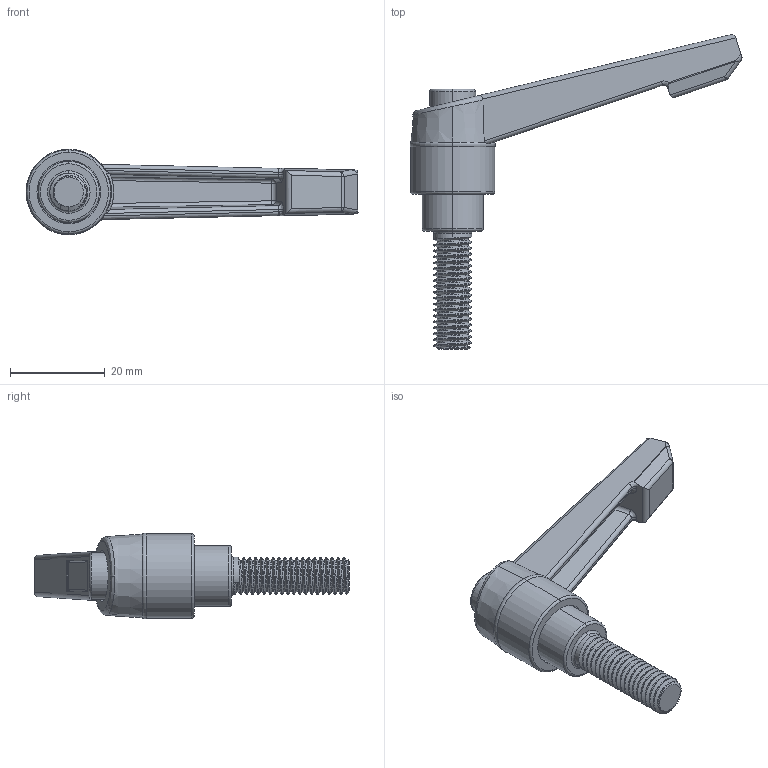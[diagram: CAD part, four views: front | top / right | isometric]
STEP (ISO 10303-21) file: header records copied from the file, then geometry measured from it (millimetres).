
FILE_DESCRIPTION (( 'STEP AP214' ), '1' );
FILE_NAME ('M8 x 25mm Adjustable Clamping Handle Lever.STEP', '2025-05-27T19:12:18', ( '' ), ( '' ), 'SwSTEP 2.0', 'SolidWorks 2024', '' );
FILE_SCHEMA (( 'AUTOMOTIVE_DESIGN' ));
Length unit declared in the file: millimetre
Products named in the file (1): M8 x 25mm Adjustable Clamping Handle Lever
Bounding box: 70.23 x 66.56 x 18.09 mm (x, y, z)
Volume: 9416.7 mm3; surface area: 6861.6 mm2
Topology: 1 solids, 2 shells, 152 faces, 381 edges, 241 vertices
Faces by surface type: cylinder 82, plane 36, bspline 14, torus 10, cone 6, sphere 4
Entity records: 7852 total; most frequent: CARTESIAN_POINT 4644, ORIENTED_EDGE 762, DIRECTION 567, EDGE_CURVE 381, VERTEX_POINT 241, AXIS2_PLACEMENT_3D 211, EDGE_LOOP 160, ADVANCED_FACE 152
